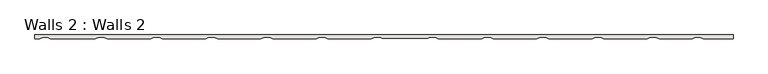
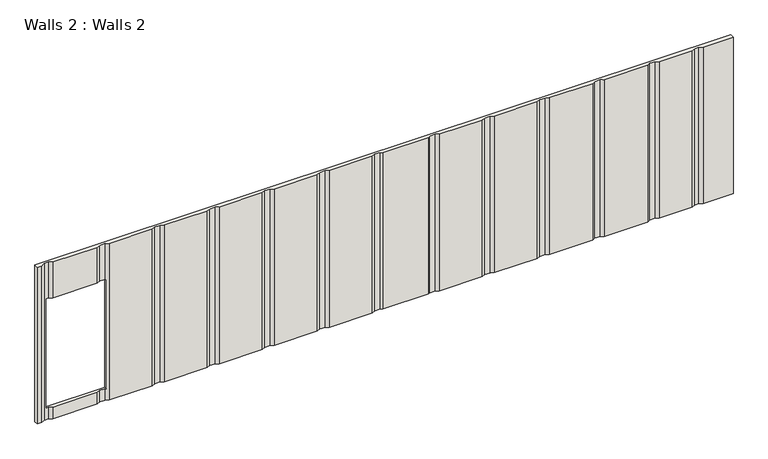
"""IFC4 building model written with IfcOpenShell, lengths in millimetres: wall geometry, Walls 2 : Walls 2."""

from ifc_helpers import new_model, si_unit, origin, place, context, project, spatial, faceted_brep, source, transform, mapped, element, save


def walls_2_walls_2_3790177b(model_context):
    return source(origin(), model_context, "Body", "Brep", [
        faceted_brep([(19050.0096314, 1614.4370976, 3560.6552161), (5514.3164082, 1614.4370976, 3560.6552161), (5514.3164082, 1536.9370976, 3560.6552161), (5605.2596593, 1536.9370976, 3560.6552161), (5673.5985761, 1573.1165241, 3560.6552161), (5754.0803271, 1573.1165241, 3560.6552161), (5815.3605819, 1540.6740315, 3560.6552161), (6687.4337098, 1540.6740315, 3560.6552161), (6748.3750588, 1572.9370986, 3560.6552161), (6853.3750683, 1572.9370986, 3560.6552161), (6914.3164082, 1540.6740315, 3560.6552161), (7756.8183043, 1540.6740315, 3560.6552161), (7817.7596533, 1572.9370986, 3560.6552161), (7922.7596628, 1572.9370986, 3560.6552161), (7983.7010027, 1540.6740315, 3560.6552161), (8827.4337098, 1540.6740315, 3560.6552161), (8888.3750588, 1572.9370986, 3560.6552161), (8993.3750683, 1572.9370986, 3560.6552161), (9054.3164082, 1540.6740315, 3560.6552161), (9897.4337098, 1540.6740315, 3560.6552161), (9958.3750588, 1572.9370986, 3560.6552161), (10063.3750683, 1572.9370986, 3560.6552161), (10124.3164082, 1540.6740315, 3560.6552161), (10967.4337098, 1540.6740315, 3560.6552161), (11028.3750588, 1572.9370986, 3560.6552161), (11133.3750683, 1572.9370986, 3560.6552161), (11194.3164082, 1540.6740315, 3560.6552161), (12037.4337098, 1540.6740315, 3560.6552161), (12098.3750588, 1572.9370986, 3560.6552161), (12203.3750683, 1572.9370986, 3560.6552161), (12243.389439, 1551.7530168, 3560.6552161), (13128.3606791, 1551.7530168, 3560.6552161), (13168.3750498, 1572.9370986, 3560.6552161), (13273.3750593, 1572.9370986, 3560.6552161), (13334.3164082, 1540.6740315, 3560.6552161), (14177.4337098, 1540.6740315, 3560.6552161), (14238.3750498, 1572.9370986, 3560.6552161), (14343.3750593, 1572.9370986, 3560.6552161), (14404.3164082, 1540.6740315, 3560.6552161), (15247.4337098, 1540.6740315, 3560.6552161), (15308.3750498, 1572.9370986, 3560.6552161), (15413.3750593, 1572.9370986, 3560.6552161), (15474.3164082, 1540.6740315, 3560.6552161), (16318.0491154, 1540.6740315, 3560.6552161), (16378.9904553, 1572.9370986, 3560.6552161), (16483.9904648, 1572.9370986, 3560.6552161), (16544.9318138, 1540.6740315, 3560.6552161), (17387.4337098, 1540.6740315, 3560.6552161), (17448.3750498, 1572.9370986, 3560.6552161), (17553.3750593, 1572.9370986, 3560.6552161), (17614.3164082, 1540.6740315, 3560.6552161), (18259.5068378, 1540.6740315, 3560.6552161), (18320.7870926, 1573.1165241, 3560.6552161), (18401.2688436, 1573.1165241, 3560.6552161), (18469.6077604, 1536.9370976, 3560.6552161), (19050.0096314, 1536.9370976, 3560.6552161), (5514.3164082, 1614.4370976, 336.5252864), (19050.0096314, 1614.4370976, 336.5252864), (19050.0096314, 1536.9370976, 336.5252864), (18469.6077604, 1536.9370976, 336.5252864), (18401.2688436, 1573.1165241, 336.5252864), (18320.7870926, 1573.1165241, 336.5252864), (18259.5068378, 1540.6740315, 336.5252864), (17614.3164082, 1540.6740315, 336.5252864), (17553.3750593, 1572.9370986, 336.5252864), (17448.3750498, 1572.9370986, 336.5252864), (17387.4337098, 1540.6740315, 336.5252864), (16544.9318138, 1540.6740315, 336.5252864), (16483.9904648, 1572.9370986, 336.5252864), (16378.9904553, 1572.9370986, 336.5252864), (16318.0491154, 1540.6740315, 336.5252864), (15474.3164082, 1540.6740315, 336.5252864), (15413.3750593, 1572.9370986, 336.5252864), (15308.3750498, 1572.9370986, 336.5252864), (15247.4337098, 1540.6740315, 336.5252864), (14404.3164082, 1540.6740315, 336.5252864), (14343.3750593, 1572.9370986, 336.5252864), (14238.3750498, 1572.9370986, 336.5252864), (14177.4337098, 1540.6740315, 336.5252864), (13334.3164082, 1540.6740315, 336.5252864), (13273.3750593, 1572.9370986, 336.5252864), (13168.3750498, 1572.9370986, 336.5252864), (13128.3606791, 1551.7530168, 336.5252864), (12243.389439, 1551.7530168, 336.5252864), (12203.3750683, 1572.9370986, 336.5252864), (12098.3750588, 1572.9370986, 336.5252864), (12037.4337098, 1540.6740315, 336.5252864), (11194.3164082, 1540.6740315, 336.5252864), (11133.3750683, 1572.9370986, 336.5252864), (11028.3750588, 1572.9370986, 336.5252864), (10967.4337098, 1540.6740315, 336.5252864), (10124.3164082, 1540.6740315, 336.5252864), (10063.3750683, 1572.9370986, 336.5252864), (9958.3750588, 1572.9370986, 336.5252864), (9897.4337098, 1540.6740315, 336.5252864), (9054.3164082, 1540.6740315, 336.5252864), (8993.3750683, 1572.9370986, 336.5252864), (8888.3750588, 1572.9370986, 336.5252864), (8827.4337098, 1540.6740315, 336.5252864), (7983.7010027, 1540.6740315, 336.5252864), (7922.7596628, 1572.9370986, 336.5252864), (7817.7596533, 1572.9370986, 336.5252864), (7756.8183043, 1540.6740315, 336.5252864), (6914.3164082, 1540.6740315, 336.5252864), (6853.3750683, 1572.9370986, 336.5252864), (6748.3750588, 1572.9370986, 336.5252864), (6687.4337098, 1540.6740315, 336.5252864), (5815.3605819, 1540.6740315, 336.5252864), (5754.0803271, 1573.1165241, 336.5252864), (5673.5985761, 1573.1165241, 336.5252864), (5605.2596593, 1536.9370976, 336.5252864), (5514.3164082, 1536.9370976, 336.5252864), (5697.5533421, 1614.4370976, 2825.0), (5697.5533421, 1614.4370976, 571.0), (6872.5533421, 1614.4370976, 571.0), (6872.5533421, 1614.4370976, 2825.0), (5754.0803271, 1573.1165241, 571.0), (5697.5533421, 1573.1165241, 571.0), (5697.5533421, 1573.1165241, 2825.0), (5754.0803271, 1573.1165241, 2825.0), (5815.3605819, 1540.6740315, 2825.0), (5815.3605819, 1540.6740315, 571.0), (6687.4337098, 1540.6740315, 2825.0), (6687.4337098, 1540.6740315, 571.0), (6748.3750588, 1572.9370986, 2825.0), (6748.3750588, 1572.9370986, 571.0), (6853.3750683, 1572.9370986, 2825.0), (6853.3750683, 1572.9370986, 571.0), (6872.5533421, 1562.7838933, 2825.0), (6872.5533421, 1562.7838933, 571.0)], [[[0, 1, 2, 3, 4, 5, 6, 7, 8, 9, 10, 11, 12, 13, 14, 15, 16, 17, 18, 19, 20, 21, 22, 23, 24, 25, 26, 27, 28, 29, 30, 31, 32, 33, 34, 35, 36, 37, 38, 39, 40, 41, 42, 43, 44, 45, 46, 47, 48, 49, 50, 51, 52, 53, 54, 55]], [[56, 57, 58, 59, 60, 61, 62, 63, 64, 65, 66, 67, 68, 69, 70, 71, 72, 73, 74, 75, 76, 77, 78, 79, 80, 81, 82, 83, 84, 85, 86, 87, 88, 89, 90, 91, 92, 93, 94, 95, 96, 97, 98, 99, 100, 101, 102, 103, 104, 105, 106, 107, 108, 109, 110, 111]], [[57, 56, 1, 0], [112, 113, 114, 115]], [[56, 111, 2, 1]], [[0, 55, 58, 57]], [[4, 3, 110, 109]], [[5, 4, 109, 108, 116, 117, 118, 119]], [[6, 5, 119, 120]], [[108, 107, 121, 116]], [[7, 6, 120, 122]], [[107, 106, 123, 121]], [[8, 7, 122, 124]], [[106, 105, 125, 123]], [[9, 8, 124, 126]], [[105, 104, 127, 125]], [[10, 9, 126, 128, 129, 127, 104, 103]], [[3, 2, 111, 110]], [[11, 10, 103, 102]], [[12, 11, 102, 101]], [[13, 12, 101, 100]], [[14, 13, 100, 99]], [[15, 14, 99, 98]], [[16, 15, 98, 97]], [[17, 16, 97, 96]], [[18, 17, 96, 95]], [[19, 18, 95, 94]], [[20, 19, 94, 93]], [[21, 20, 93, 92]], [[22, 21, 92, 91]], [[23, 22, 91, 90]], [[28, 27, 86, 85]], [[29, 28, 85, 84]], [[30, 29, 84, 83]], [[35, 34, 79, 78]], [[36, 35, 78, 77]], [[37, 36, 77, 76]], [[38, 37, 76, 75]], [[39, 38, 75, 74]], [[40, 39, 74, 73]], [[41, 40, 73, 72]], [[42, 41, 72, 71]], [[43, 42, 71, 70]], [[44, 43, 70, 69]], [[45, 44, 69, 68]], [[46, 45, 68, 67]], [[47, 46, 67, 66]], [[48, 47, 66, 65]], [[49, 48, 65, 64]], [[50, 49, 64, 63]], [[51, 50, 63, 62]], [[52, 51, 62, 61]], [[53, 52, 61, 60]], [[54, 53, 60, 59]], [[55, 54, 59, 58]], [[24, 23, 90, 89]], [[25, 24, 89, 88]], [[26, 25, 88, 87]], [[27, 26, 87, 86]], [[31, 30, 83, 82]], [[32, 31, 82, 81]], [[33, 32, 81, 80]], [[34, 33, 80, 79]], [[117, 113, 112, 118]], [[118, 112, 115, 128, 126, 124, 122, 120, 119]], [[128, 115, 114, 129]], [[113, 117, 116, 121, 123, 125, 127, 129, 114]]]),
    ])


if __name__ == "__main__":
    model = new_model("IFC4")
    model_context = context("Model", 3, world=origin())
    ifc_project = project(units=[si_unit("LENGTHUNIT", "METRE", prefix="MILLI")], contexts=[model_context])
    site = spatial("IfcSite", under=ifc_project)
    building = spatial("IfcBuilding", under=site)
    placement = place(None, origin())
    walls_2_walls_2_shape = walls_2_walls_2_3790177b(model_context)
    element("IfcWall", 1, ObjectType="Walls 2 : Walls 2", at=placement, inside=building, context=model_context, shape_type="MappedRepresentation", body=[
        mapped(walls_2_walls_2_shape, transform((0.0, 0.0, 0.0), x_axis=(1.0, 0.0, 0.0), y_axis=(0.0, 1.0, 0.0), z_axis=(0.0, 0.0, 1.0))),
    ])
    save(model, "model.ifc")
